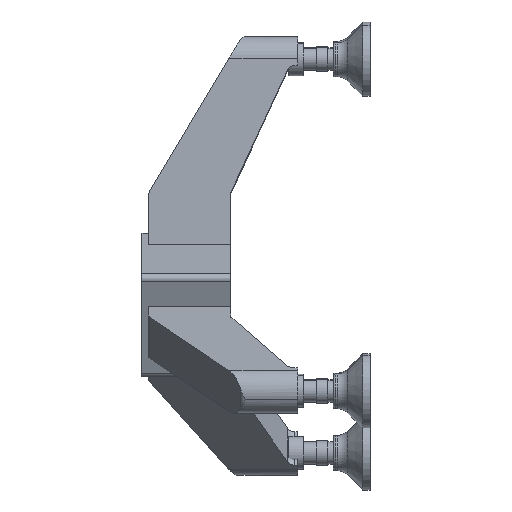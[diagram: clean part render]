
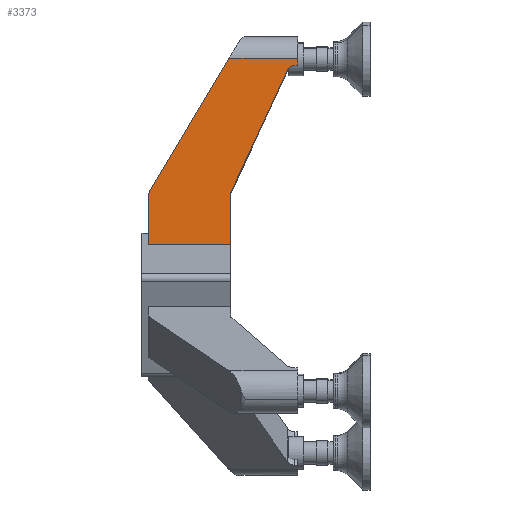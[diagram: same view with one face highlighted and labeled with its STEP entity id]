
A CAD part, left-side view. The second image highlights one B-rep face of the part: STEP entity #3373.
In plain terms, the highlighted planar face has unit normal (-1, 0, 0.025).
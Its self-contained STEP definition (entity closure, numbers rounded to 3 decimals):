
#154 = EDGE_CURVE ( 'NONE', #3232, #3185, #2489, .T. ) ;
#206 = CARTESIAN_POINT ( 'NONE',  ( 98.487, 123.648, 215.763 ) ) ;
#232 = EDGE_CURVE ( 'NONE', #3089, #3232, #626, .T. ) ;
#277 = VECTOR ( 'NONE', #1601, 1000. ) ;
#464 = EDGE_CURVE ( 'NONE', #1793, #812, #1103, .T. ) ;
#529 = CARTESIAN_POINT ( 'NONE',  ( 95.585, 199., 99.423 ) ) ;
#542 = EDGE_CURVE ( 'NONE', #1793, #2750, #871, .T. ) ;
#546 = VECTOR ( 'NONE', #3789, 1000. ) ;
#584 = EDGE_CURVE ( 'NONE', #3185, #884, #3118, .T. ) ;
#626 = LINE ( 'NONE', #206, #922 ) ;
#741 = DIRECTION ( 'NONE',  ( -0.025, 0., -1. ) ) ;
#748 = LINE ( 'NONE', #3281, #1659 ) ;
#810 = DIRECTION ( 'NONE',  ( -1., 0., 0.025 ) ) ;
#812 = VERTEX_POINT ( 'NONE', #3895 ) ;
#870 = ORIENTED_EDGE ( 'NONE', *, *, #542, .F. ) ;
#871 = LINE ( 'NONE', #2570, #2533 ) ;
#884 = VERTEX_POINT ( 'NONE', #1197 ) ;
#922 = VECTOR ( 'NONE', #3011, 1000. ) ;
#1063 = CARTESIAN_POINT ( 'NONE',  ( 98.487, 65., 215.763 ) ) ;
#1103 = LINE ( 'NONE', #3986, #277 ) ;
#1124 = DIRECTION ( 'NONE',  ( 0., 1., 0. ) ) ;
#1197 = CARTESIAN_POINT ( 'NONE',  ( 98.636, 126.915, 221.761 ) ) ;
#1431 = ORIENTED_EDGE ( 'NONE', *, *, #1437, .T. ) ;
#1437 = EDGE_CURVE ( 'NONE', #3390, #1553, #2086, .T. ) ;
#1462 = CARTESIAN_POINT ( 'NONE',  ( 97.191, 65., 163.816 ) ) ;
#1465 = DIRECTION ( 'NONE',  ( 0.025, 0., 1. ) ) ;
#1505 = EDGE_CURVE ( 'NONE', #3005, #3390, #2467, .T. ) ;
#1533 = EDGE_CURVE ( 'NONE', #2750, #1553, #748, .T. ) ;
#1534 = CARTESIAN_POINT ( 'NONE',  ( 95.644, 125., 101.798 ) ) ;
#1553 = VERTEX_POINT ( 'NONE', #1723 ) ;
#1582 = EDGE_LOOP ( 'NONE', ( #1705, #2433, #3956, #3754, #2672, #1431, #3947, #870, #3398, #3178 ) ) ;
#1601 = DIRECTION ( 'NONE',  ( 0.023, -0.422, 0.907 ) ) ;
#1612 = CARTESIAN_POINT ( 'NONE',  ( 98.487, 67.535, 215.763 ) ) ;
#1619 = DIRECTION ( 'NONE',  ( -0.025, 0., -1. ) ) ;
#1659 = VECTOR ( 'NONE', #1124, 1000. ) ;
#1705 = ORIENTED_EDGE ( 'NONE', *, *, #232, .T. ) ;
#1708 = CARTESIAN_POINT ( 'NONE',  ( 95.585, 194., 99.423 ) ) ;
#1723 = CARTESIAN_POINT ( 'NONE',  ( 94.468, 199., 54.656 ) ) ;
#1793 = VERTEX_POINT ( 'NONE', #1534 ) ;
#1847 = CARTESIAN_POINT ( 'NONE',  ( 98.636, 126.915, 221.761 ) ) ;
#1868 = VECTOR ( 'NONE', #3268, 1000. ) ;
#1967 = CARTESIAN_POINT ( 'NONE',  ( 98.312, 67.535, 208.765 ) ) ;
#2052 = CARTESIAN_POINT ( 'NONE',  ( 97.191, 123.648, 163.816 ) ) ;
#2086 = LINE ( 'NONE', #2550, #546 ) ;
#2109 = VECTOR ( 'NONE', #2841, 1000. ) ;
#2240 = LINE ( 'NONE', #1847, #3729 ) ;
#2345 = CARTESIAN_POINT ( 'NONE',  ( 95.649, 198.295, 101.981 ) ) ;
#2433 = ORIENTED_EDGE ( 'NONE', *, *, #154, .T. ) ;
#2467 = CIRCLE ( 'NONE', #2478, 5. ) ;
#2472 = CARTESIAN_POINT ( 'NONE',  ( 94.468, 125., 54.656 ) ) ;
#2478 = AXIS2_PLACEMENT_3D ( 'NONE', #1708, #810, #3571 ) ;
#2489 = LINE ( 'NONE', #1462, #1868 ) ;
#2512 = CIRCLE ( 'NONE', #3878, 7. ) ;
#2533 = VECTOR ( 'NONE', #1619, 1000. ) ;
#2550 = CARTESIAN_POINT ( 'NONE',  ( 97.191, 199., 163.816 ) ) ;
#2562 = CARTESIAN_POINT ( 'NONE',  ( 98.636, 65., 221.761 ) ) ;
#2570 = CARTESIAN_POINT ( 'NONE',  ( 95.644, 125., 101.798 ) ) ;
#2672 = ORIENTED_EDGE ( 'NONE', *, *, #1505, .T. ) ;
#2713 = EDGE_CURVE ( 'NONE', #884, #3005, #2240, .T. ) ;
#2750 = VERTEX_POINT ( 'NONE', #2472 ) ;
#2768 = DIRECTION ( 'NONE',  ( -0.021, 0.512, -0.859 ) ) ;
#2841 = DIRECTION ( 'NONE',  ( 0., 1., 0. ) ) ;
#2867 = DIRECTION ( 'NONE',  ( 1., 0., -0.025 ) ) ;
#2960 = DIRECTION ( 'NONE',  ( -1., 0., 0.025 ) ) ;
#2990 = FACE_OUTER_BOUND ( 'NONE', #1582, .T. ) ;
#3005 = VERTEX_POINT ( 'NONE', #2345 ) ;
#3011 = DIRECTION ( 'NONE',  ( 0., -1., 0. ) ) ;
#3089 = VERTEX_POINT ( 'NONE', #1612 ) ;
#3118 = LINE ( 'NONE', #3475, #2109 ) ;
#3178 = ORIENTED_EDGE ( 'NONE', *, *, #3222, .T. ) ;
#3185 = VERTEX_POINT ( 'NONE', #2562 ) ;
#3222 = EDGE_CURVE ( 'NONE', #812, #3089, #2512, .T. ) ;
#3232 = VERTEX_POINT ( 'NONE', #1063 ) ;
#3268 = DIRECTION ( 'NONE',  ( 0.025, 0., 1. ) ) ;
#3281 = CARTESIAN_POINT ( 'NONE',  ( 94.468, 125., 54.656 ) ) ;
#3373 = ADVANCED_FACE ( 'NONE', ( #2990 ), #3889, .T. ) ;
#3390 = VERTEX_POINT ( 'NONE', #529 ) ;
#3398 = ORIENTED_EDGE ( 'NONE', *, *, #464, .T. ) ;
#3475 = CARTESIAN_POINT ( 'NONE',  ( 98.636, 123.648, 221.761 ) ) ;
#3571 = DIRECTION ( 'NONE',  ( -0.025, 0., -1. ) ) ;
#3729 = VECTOR ( 'NONE', #2768, 1000. ) ;
#3754 = ORIENTED_EDGE ( 'NONE', *, *, #2713, .T. ) ;
#3789 = DIRECTION ( 'NONE',  ( -0.025, 0., -1. ) ) ;
#3878 = AXIS2_PLACEMENT_3D ( 'NONE', #1967, #2867, #741 ) ;
#3889 = PLANE ( 'NONE',  #3952 ) ;
#3895 = CARTESIAN_POINT ( 'NONE',  ( 98.386, 73.882, 211.715 ) ) ;
#3947 = ORIENTED_EDGE ( 'NONE', *, *, #1533, .F. ) ;
#3952 = AXIS2_PLACEMENT_3D ( 'NONE', #2052, #2960, #1465 ) ;
#3956 = ORIENTED_EDGE ( 'NONE', *, *, #584, .T. ) ;
#3986 = CARTESIAN_POINT ( 'NONE',  ( 95.644, 125., 101.798 ) ) ;
